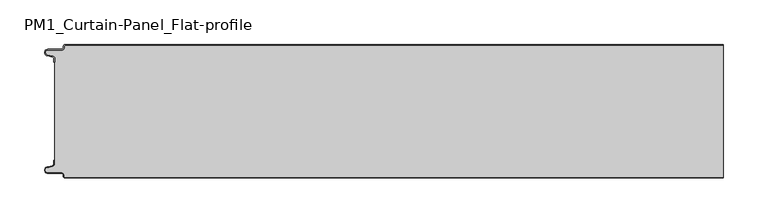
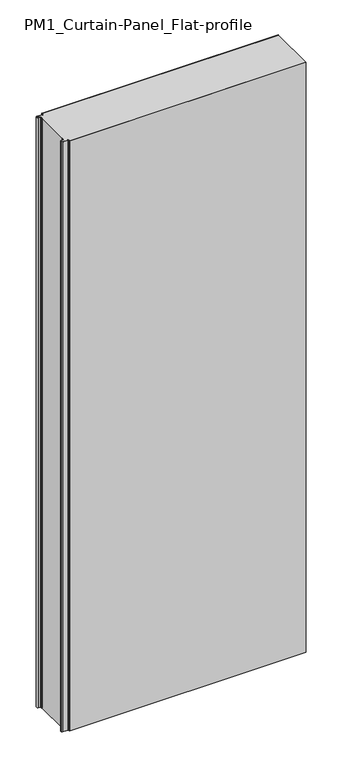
"""IFC4 building model written with IfcOpenShell, lengths in millimetres: plate geometry, PM1_Curtain-Panel_Flat-profile : ACH_PM1_Stone-wool-Panel_150M."""

from ifc_helpers import new_model, si_unit, point, frame_2d, origin, origin_with_axes, place, context, project, spatial, polyline, circle_curve, trimmed, segment, composite_curve, outline, extrude, source, transform, mapped, element, save


def pm1_curtain_panel_flat_profile_28417d67(model_context):
    return source(origin(), model_context, "Body", "SweptSolid", [
        extrude(outline(composite_curve([segment(trimmed(circle_curve(frame_2d((-362.4119739, -2.0)), 1.2), [point((-362.4119739, -0.8))], [point((-363.6119739, -2.0))], True, "CARTESIAN"), True, "CONTINUOUS"), segment(polyline([(-363.6119739, -2.0), (-363.6119739, -3.4)]), True, "CONTINUOUS"), segment(trimmed(circle_curve(frame_2d((-366.4119739, -3.4)), 2.8), [point((-363.6119739, -3.4))], [point((-366.4119739, -6.2))], False, "CARTESIAN"), True, "CONTINUOUS"), segment(polyline([(-366.4119739, -6.2), (-381.9119739, -6.2)]), True, "CONTINUOUS"), segment(trimmed(circle_curve(frame_2d((-381.9119739, -9.0)), 2.8), [point((-381.9119739, -6.2))], [point((-382.541837, -11.7282362))], True, "CARTESIAN"), True, "CONTINUOUS"), segment(polyline([(-382.541837, -11.7282362), (-376.3821109, -13.150321)]), True, "CONTINUOUS"), segment(trimmed(circle_curve(frame_2d((-377.0119739, -15.878557)), 2.8), [point((-376.3821109, -13.150321))], [point((-374.2119739, -15.878557))], False, "CARTESIAN"), True, "CONTINUOUS"), segment(polyline([(-374.2119739, -15.878557), (-374.2119739, -20.0), (-375.0119739, -20.0), (-375.0119739, -15.878557)]), True, "CONTINUOUS"), segment(trimmed(circle_curve(frame_2d((-377.0119739, -15.878557)), 2.0), [point((-375.0119739, -15.878557))], [point((-376.5620718, -13.9298169))], True, "CARTESIAN"), True, "CONTINUOUS"), segment(polyline([(-376.5620718, -13.9298169), (-382.7217978, -12.507732)]), True, "CONTINUOUS"), segment(trimmed(circle_curve(frame_2d((-381.9119739, -9.0)), 3.6), [point((-382.7217978, -12.507732))], [point((-381.9119739, -5.4))], False, "CARTESIAN"), True, "CONTINUOUS"), segment(polyline([(-381.9119739, -5.4), (-366.4119739, -5.4)]), True, "CONTINUOUS"), segment(trimmed(circle_curve(frame_2d((-366.4119739, -3.4)), 2.0), [point((-366.4119739, -5.4))], [point((-364.4119739, -3.4))], True, "CARTESIAN"), True, "CONTINUOUS"), segment(polyline([(-364.4119739, -3.4), (-364.4119739, -2.0)]), True, "CONTINUOUS"), segment(trimmed(circle_curve(frame_2d((-362.4119739, -2.0)), 2.0), [point((-364.4119739, -2.0))], [point((-362.4119739, 0.0))], False, "CARTESIAN"), True, "CONTINUOUS"), segment(polyline([(-362.4119739, 0.0), (375.0119739, 0.0), (375.0119739, -0.8), (-362.4119739, -0.8)]), True, "CONTINUOUS")], self_intersect=False)), origin_with_axes(), (0.0, 0.0, 1.0), 1945.7507136),
        extrude(outline(composite_curve([segment(polyline([(-374.2119739, -134.1214426), (-374.2119739, -15.8785573)]), True, "CONTINUOUS"), segment(trimmed(circle_curve(frame_2d((-377.0119739, -15.8785573)), 2.8), [point((-374.2119739, -15.8785573))], [point((-376.3821109, -13.1503212))], True, "CARTESIAN"), True, "CONTINUOUS"), segment(polyline([(-376.3821109, -13.1503212), (-382.541837, -11.7282362)]), True, "CONTINUOUS"), segment(trimmed(circle_curve(frame_2d((-381.911974, -9.0)), 2.8), [point((-382.541837, -11.7282362))], [point((-381.911974, -6.2))], False, "CARTESIAN"), True, "CONTINUOUS"), segment(polyline([(-381.911974, -6.2), (-366.411974, -6.2)]), True, "CONTINUOUS"), segment(trimmed(circle_curve(frame_2d((-366.411974, -3.4)), 2.8), [point((-366.411974, -6.2))], [point((-363.611974, -3.4))], True, "CARTESIAN"), True, "CONTINUOUS"), segment(polyline([(-363.611974, -3.4), (-363.611974, -2.0)]), True, "CONTINUOUS"), segment(trimmed(circle_curve(frame_2d((-362.411974, -2.0)), 1.2), [point((-363.611974, -2.0))], [point((-362.411974, -0.8))], False, "CARTESIAN"), True, "CONTINUOUS"), segment(polyline([(-362.411974, -0.8), (375.0119739, -0.8), (375.0119739, -149.2), (-362.411974, -149.2)]), True, "CONTINUOUS"), segment(trimmed(circle_curve(frame_2d((-362.411974, -148.0)), 1.2), [point((-362.411974, -149.2))], [point((-363.611974, -148.0))], False, "CARTESIAN"), True, "CONTINUOUS"), segment(polyline([(-363.611974, -148.0), (-363.611974, -146.6)]), True, "CONTINUOUS"), segment(trimmed(circle_curve(frame_2d((-366.411974, -146.6)), 2.8), [point((-363.611974, -146.6))], [point((-366.411974, -143.8))], True, "CARTESIAN"), True, "CONTINUOUS"), segment(polyline([(-366.411974, -143.8), (-381.911974, -143.8)]), True, "CONTINUOUS"), segment(trimmed(circle_curve(frame_2d((-381.911974, -141.0)), 2.8), [point((-381.911974, -143.8))], [point((-382.541837, -138.2717638))], False, "CARTESIAN"), True, "CONTINUOUS"), segment(polyline([(-382.541837, -138.2717638), (-376.3821109, -136.8496788)]), True, "CONTINUOUS"), segment(trimmed(circle_curve(frame_2d((-377.0119739, -134.1214426)), 2.8), [point((-376.3821109, -136.8496788))], [point((-374.2119739, -134.1214426))], True, "CARTESIAN"), True, "CONTINUOUS")], self_intersect=False)), origin_with_axes(), (0.0, 0.0, 1.0), 1945.7507136),
        extrude(outline(composite_curve([segment(trimmed(circle_curve(frame_2d((-362.4119739, -148.0)), 2.0), [point((-362.4119739, -150.0))], [point((-364.4119739, -148.0))], False, "CARTESIAN"), True, "CONTINUOUS"), segment(polyline([(-364.4119739, -148.0), (-364.4119739, -146.6)]), True, "CONTINUOUS"), segment(trimmed(circle_curve(frame_2d((-366.4119739, -146.6)), 2.0), [point((-364.4119739, -146.6))], [point((-366.4119739, -144.6))], True, "CARTESIAN"), True, "CONTINUOUS"), segment(polyline([(-366.4119739, -144.6), (-381.9119739, -144.6)]), True, "CONTINUOUS"), segment(trimmed(circle_curve(frame_2d((-381.9119739, -141.0)), 3.6), [point((-381.9119739, -144.6))], [point((-382.7217979, -137.4922678))], False, "CARTESIAN"), True, "CONTINUOUS"), segment(polyline([(-382.7217979, -137.4922678), (-376.5620718, -136.070183)]), True, "CONTINUOUS"), segment(trimmed(circle_curve(frame_2d((-377.0119739, -134.121443)), 2.0), [point((-376.5620718, -136.070183))], [point((-375.0119739, -134.121443))], True, "CARTESIAN"), True, "CONTINUOUS"), segment(polyline([(-375.0119739, -134.121443), (-375.0119739, -130.0), (-374.2119739, -130.0), (-374.2119739, -134.121443)]), True, "CONTINUOUS"), segment(trimmed(circle_curve(frame_2d((-377.0119739, -134.121443)), 2.8), [point((-374.2119739, -134.121443))], [point((-376.3821109, -136.8496792))], False, "CARTESIAN"), True, "CONTINUOUS"), segment(polyline([(-376.3821109, -136.8496792), (-382.5418369, -138.271764)]), True, "CONTINUOUS"), segment(trimmed(circle_curve(frame_2d((-381.9119739, -141.0)), 2.8), [point((-382.5418369, -138.271764))], [point((-381.9119739, -143.8))], True, "CARTESIAN"), True, "CONTINUOUS"), segment(polyline([(-381.9119739, -143.8), (-366.4119739, -143.8)]), True, "CONTINUOUS"), segment(trimmed(circle_curve(frame_2d((-366.4119739, -146.6)), 2.8), [point((-366.4119739, -143.8))], [point((-363.6119739, -146.6))], False, "CARTESIAN"), True, "CONTINUOUS"), segment(polyline([(-363.6119739, -146.6), (-363.6119739, -148.0)]), True, "CONTINUOUS"), segment(trimmed(circle_curve(frame_2d((-362.4119739, -148.0)), 1.2), [point((-363.6119739, -148.0))], [point((-362.4119739, -149.2))], True, "CARTESIAN"), True, "CONTINUOUS"), segment(polyline([(-362.4119739, -149.2), (375.0119739, -149.2), (375.0119739, -150.0), (-362.4119739, -150.0)]), True, "CONTINUOUS")], self_intersect=False)), origin_with_axes(), (0.0, 0.0, 1.0), 1945.7507136),
    ])


if __name__ == "__main__":
    model = new_model("IFC4")
    model_context = context("Model", 3, world=origin())
    ifc_project = project(units=[si_unit("LENGTHUNIT", "METRE", prefix="MILLI")], contexts=[model_context])
    site = spatial("IfcSite", under=ifc_project)
    building = spatial("IfcBuilding", under=site)
    placement = place(None, origin())
    pm1_curtain_panel_flat_profile_shape = pm1_curtain_panel_flat_profile_28417d67(model_context)
    element("IfcPlate", 1, ObjectType="PM1_Curtain-Panel_Flat-profile : ACH_PM1_Stone-wool-Panel_150M", at=placement, inside=building, context=model_context, shape_type="MappedRepresentation", body=[
        mapped(pm1_curtain_panel_flat_profile_shape, transform((0.0, 0.0, 0.0), x_axis=(1.0, 0.0, 0.0), y_axis=(0.0, 1.0, 0.0), z_axis=(0.0, 0.0, 1.0))),
    ])
    save(model, "model.ifc")
